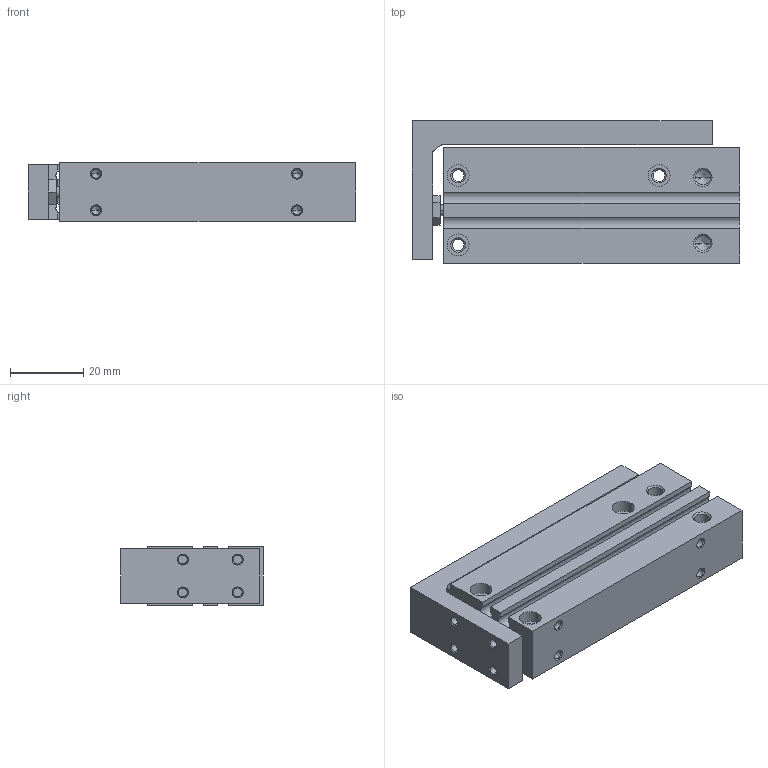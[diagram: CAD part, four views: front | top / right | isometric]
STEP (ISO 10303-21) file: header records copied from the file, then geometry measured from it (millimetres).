
FILE_DESCRIPTION (( 'STEP AP203' ), '1' );
FILE_NAME ('CXH-50.STEP', '2020-04-16T18:04:35', ( '' ), ( '' ), 'SwSTEP 2.0', 'SolidWorks 2019', '' );
FILE_SCHEMA (( 'CONFIG_CONTROL_DESIGN' ));
Length unit declared in the file: millimetre
Products named in the file (1): CXH-50
Bounding box: 89.5 x 39 x 16 mm (x, y, z)
Volume: 43462.4 mm3; surface area: 20606 mm2
Topology: 2 solids, 2 shells, 216 faces, 515 edges, 298 vertices
Faces by surface type: cone 92, cylinder 80, plane 44
Entity records: 6252 total; most frequent: DIRECTION 1141, CARTESIAN_POINT 1120, ORIENTED_EDGE 974, EDGE_CURVE 487, AXIS2_PLACEMENT_3D 441, VERTEX_POINT 298, EDGE_LOOP 265, VECTOR 259
